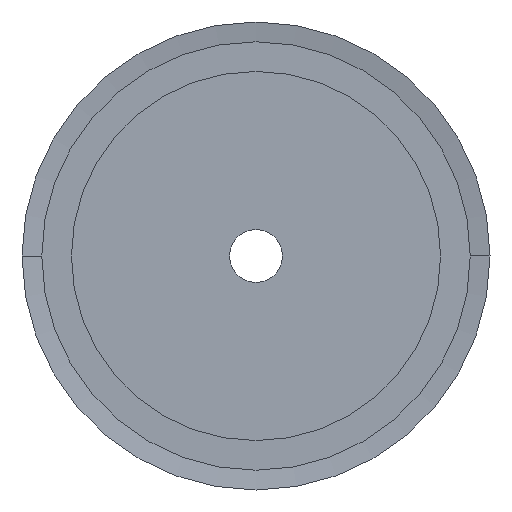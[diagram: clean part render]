
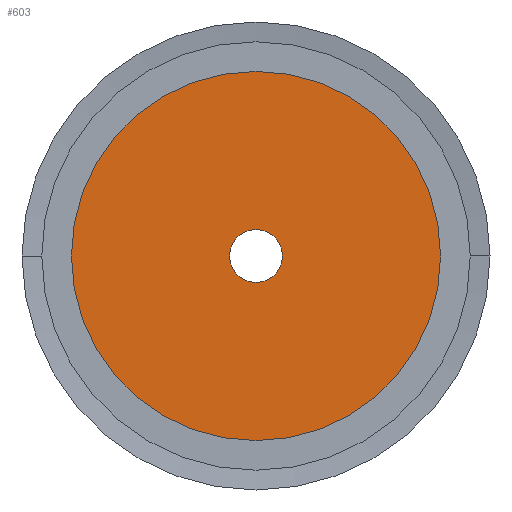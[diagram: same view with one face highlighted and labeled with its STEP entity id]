
A CAD part, left-side view. The second image highlights one B-rep face of the part: STEP entity #603.
In plain terms, the highlighted planar face has unit normal (-1, 0, 0).
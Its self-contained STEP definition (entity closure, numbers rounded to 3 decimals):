
#603 = ADVANCED_FACE( '', ( #1665, #1666 ), #1667, .T. );
#1665 = FACE_BOUND( '', #2728, .T. );
#1666 = FACE_OUTER_BOUND( '', #2729, .T. );
#1667 = PLANE( '', #2730 );
#2728 = EDGE_LOOP( '', ( #7103, #7104 ) );
#2729 = EDGE_LOOP( '', ( #7105, #7106 ) );
#2730 = AXIS2_PLACEMENT_3D( '', #7107, #7108, #7109 );
#7103 = ORIENTED_EDGE( '', *, *, #7233, .T. );
#7104 = ORIENTED_EDGE( '', *, *, #7229, .T. );
#7105 = ORIENTED_EDGE( '', *, *, #7113, .T. );
#7106 = ORIENTED_EDGE( '', *, *, #8505, .T. );
#7107 = CARTESIAN_POINT( '', ( 0., 14., 0. ) );
#7108 = DIRECTION( '', ( -1., 0., 0. ) );
#7109 = DIRECTION( '', ( 0., 1., 0. ) );
#7113 = EDGE_CURVE( '', #8507, #8511, #8513, .T. );
#7229 = EDGE_CURVE( '', #8739, #8736, #8740, .T. );
#7233 = EDGE_CURVE( '', #8736, #8739, #8745, .T. );
#8505 = EDGE_CURVE( '', #8511, #8507, #10773, .T. );
#8507 = VERTEX_POINT( '', #10775 );
#8511 = VERTEX_POINT( '', #10780 );
#8513 = CIRCLE( '', #10783, 28. );
#8736 = VERTEX_POINT( '', #11022 );
#8739 = VERTEX_POINT( '', #11026 );
#8740 = CIRCLE( '', #11027, 4. );
#8745 = CIRCLE( '', #11033, 4. );
#10773 = CIRCLE( '', #13649, 28. );
#10775 = CARTESIAN_POINT( '', ( 0., 28., 0. ) );
#10780 = CARTESIAN_POINT( '', ( 0., -28., 0. ) );
#10783 = AXIS2_PLACEMENT_3D( '', #13655, #13656, #13657 );
#11022 = CARTESIAN_POINT( '', ( 0., 4., 0. ) );
#11026 = CARTESIAN_POINT( '', ( 0., -4., 0. ) );
#11027 = AXIS2_PLACEMENT_3D( '', #13969, #13970, #13971 );
#11033 = AXIS2_PLACEMENT_3D( '', #13979, #13980, #13981 );
#13649 = AXIS2_PLACEMENT_3D( '', #16619, #16620, #16621 );
#13655 = CARTESIAN_POINT( '', ( 0., 0., 0. ) );
#13656 = DIRECTION( '', ( -1., 0., 0. ) );
#13657 = DIRECTION( '', ( 0., 1., 0. ) );
#13969 = CARTESIAN_POINT( '', ( 0., 0., 0. ) );
#13970 = DIRECTION( '', ( 1., 0., 0. ) );
#13971 = DIRECTION( '', ( 0., 1., 0. ) );
#13979 = CARTESIAN_POINT( '', ( 0., 0., 0. ) );
#13980 = DIRECTION( '', ( 1., 0., 0. ) );
#13981 = DIRECTION( '', ( 0., 1., 0. ) );
#16619 = CARTESIAN_POINT( '', ( 0., 0., 0. ) );
#16620 = DIRECTION( '', ( -1., 0., 0. ) );
#16621 = DIRECTION( '', ( 0., 1., 0. ) );
